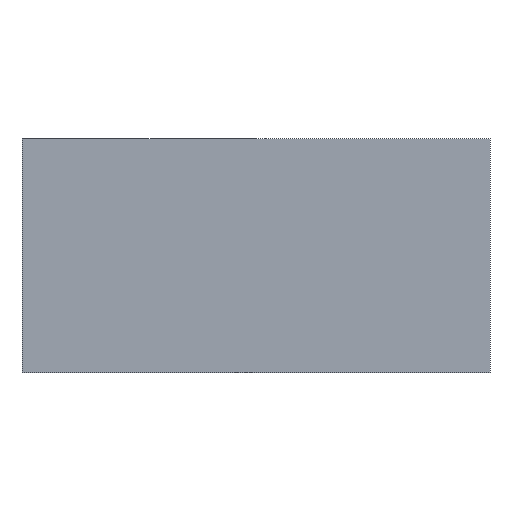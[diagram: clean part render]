
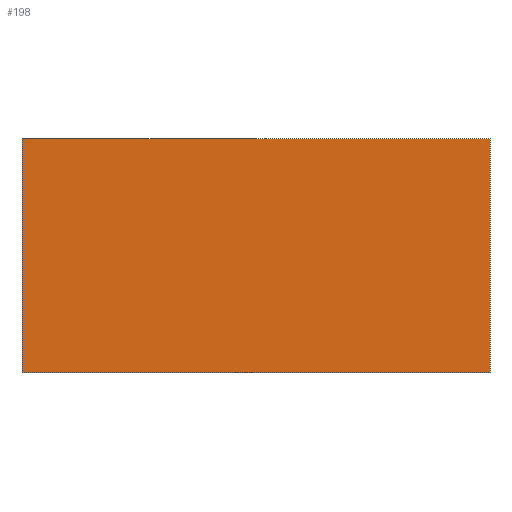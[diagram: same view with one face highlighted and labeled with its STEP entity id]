
A CAD part, front view. The second image highlights one B-rep face of the part: STEP entity #198.
In plain terms, the highlighted planar face has unit normal (0, -1, 0).
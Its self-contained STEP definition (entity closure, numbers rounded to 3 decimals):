
#3 = EDGE_CURVE ( 'NONE', #57, #182, #56, .T. ) ;
#5 = CARTESIAN_POINT ( 'NONE',  ( 24., -241., 24. ) ) ;
#10 = CARTESIAN_POINT ( 'NONE',  ( -24., -241., 24. ) ) ;
#21 = DIRECTION ( 'NONE',  ( 0., 0., -1. ) ) ;
#26 = CARTESIAN_POINT ( 'NONE',  ( 24., -241., 24. ) ) ;
#29 = DIRECTION ( 'NONE',  ( 0., 1., 0. ) ) ;
#30 = CARTESIAN_POINT ( 'NONE',  ( -24., -241., 24. ) ) ;
#38 = ORIENTED_EDGE ( 'NONE', *, *, #211, .T. ) ;
#42 = DIRECTION ( 'NONE',  ( 0., 0., 1. ) ) ;
#47 = CARTESIAN_POINT ( 'NONE',  ( -24., -241., 0. ) ) ;
#48 = EDGE_CURVE ( 'NONE', #223, #57, #142, .T. ) ;
#53 = EDGE_LOOP ( 'NONE', ( #77, #219, #202, #38 ) ) ;
#56 = LINE ( 'NONE', #5, #187 ) ;
#57 = VERTEX_POINT ( 'NONE', #26 ) ;
#62 = PLANE ( 'NONE',  #234 ) ;
#64 = LINE ( 'NONE', #10, #74 ) ;
#74 = VECTOR ( 'NONE', #145, 1000. ) ;
#77 = ORIENTED_EDGE ( 'NONE', *, *, #220, .T. ) ;
#84 = LINE ( 'NONE', #47, #180 ) ;
#99 = CARTESIAN_POINT ( 'NONE',  ( -24., -241., 0. ) ) ;
#111 = VECTOR ( 'NONE', #140, 1000. ) ;
#119 = VERTEX_POINT ( 'NONE', #99 ) ;
#122 = DIRECTION ( 'NONE',  ( 1., 0., 0. ) ) ;
#124 = CARTESIAN_POINT ( 'NONE',  ( -24., -241., 24. ) ) ;
#140 = DIRECTION ( 'NONE',  ( 1., 0., 0. ) ) ;
#142 = LINE ( 'NONE', #209, #111 ) ;
#145 = DIRECTION ( 'NONE',  ( 0., 0., -1. ) ) ;
#155 = CARTESIAN_POINT ( 'NONE',  ( 24., -241., 0. ) ) ;
#180 = VECTOR ( 'NONE', #122, 1000. ) ;
#182 = VERTEX_POINT ( 'NONE', #155 ) ;
#187 = VECTOR ( 'NONE', #21, 1000. ) ;
#198 = ADVANCED_FACE ( 'NONE', ( #229 ), #62, .F. ) ;
#202 = ORIENTED_EDGE ( 'NONE', *, *, #48, .F. ) ;
#209 = CARTESIAN_POINT ( 'NONE',  ( -24., -241., 24. ) ) ;
#211 = EDGE_CURVE ( 'NONE', #223, #119, #64, .T. ) ;
#219 = ORIENTED_EDGE ( 'NONE', *, *, #3, .F. ) ;
#220 = EDGE_CURVE ( 'NONE', #119, #182, #84, .T. ) ;
#223 = VERTEX_POINT ( 'NONE', #30 ) ;
#229 = FACE_OUTER_BOUND ( 'NONE', #53, .T. ) ;
#234 = AXIS2_PLACEMENT_3D ( 'NONE', #124, #29, #42 ) ;
